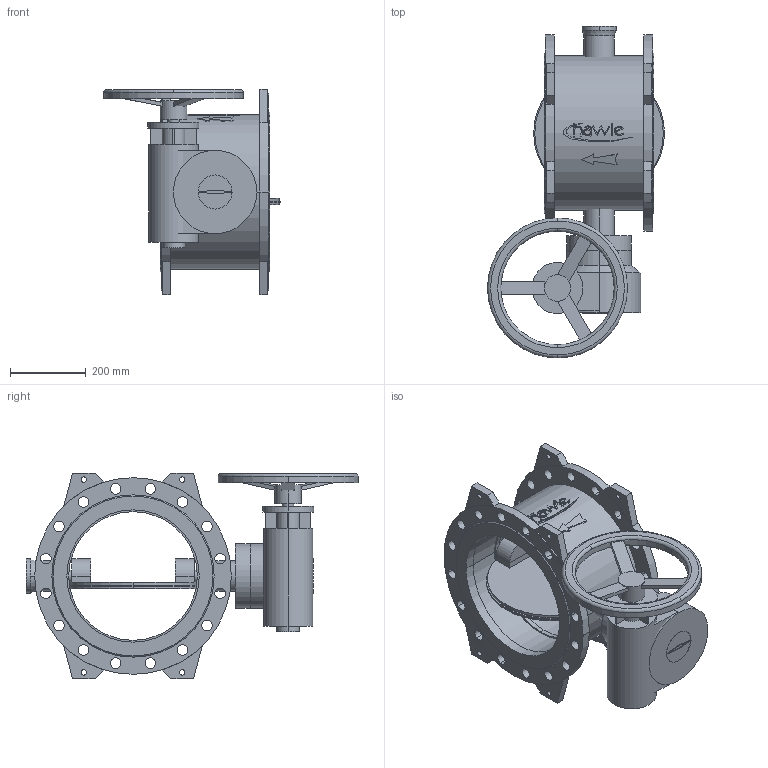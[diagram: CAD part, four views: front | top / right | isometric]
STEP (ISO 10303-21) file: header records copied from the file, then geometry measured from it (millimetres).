
FILE_DESCRIPTION(('STEP AP214'),'1');
FILE_NAME('S:/EK/USER/CAT6/3DHomepage_27-04-2012/neu_08-01-2013/9881K/9881K_PN16_DN350_7800.STP','2013-02-26T15:25:44',(' '),(' '),'Spatial InterOp 3D',' ',' ');
FILE_SCHEMA(('automotive_design'));
Length unit declared in the file: millimetre
Products named in the file (49): 3D-Objekt
Bounding box: 468 x 878 x 544 mm (x, y, z)
Volume: 31139842.8 mm3; surface area: 2691673.9 mm2
Topology: 49 solids, 49 shells, 413 faces, 938 edges, 626 vertices
Faces by surface type: plane 214, cylinder 187, cone 8, torus 4
Entity records: 16377 total; most frequent: DIRECTION 2282, CARTESIAN_POINT 2026, ORIENTED_EDGE 1876, EDGE_CURVE 938, AXIS2_PLACEMENT_3D 882, VERTEX_POINT 626, LINE 518, VECTOR 518
